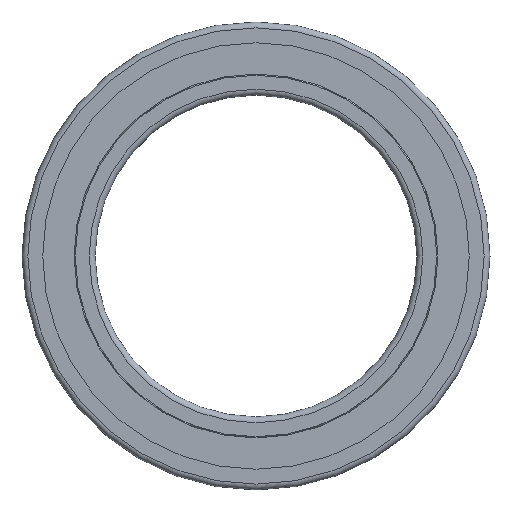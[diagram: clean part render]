
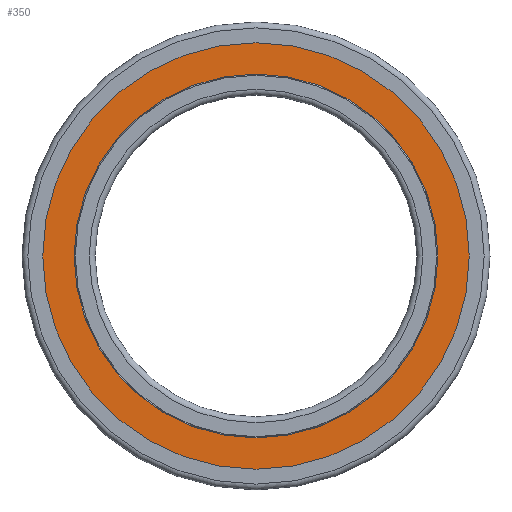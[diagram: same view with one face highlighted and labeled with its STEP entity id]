
A CAD part, left-side view. The second image highlights one B-rep face of the part: STEP entity #350.
In plain terms, the highlighted planar face has unit normal (-1, 0, 0).
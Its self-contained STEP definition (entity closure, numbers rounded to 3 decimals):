
#288=PLANE('',#1288);
#350=ADVANCED_FACE('',(#457,#458),#288,.F.);
#457=FACE_BOUND('',#671,.T.);
#458=FACE_BOUND('',#672,.T.);
#671=EDGE_LOOP('',(#855));
#672=EDGE_LOOP('',(#856));
#855=ORIENTED_EDGE('',*,*,#1153,.F.);
#856=ORIENTED_EDGE('',*,*,#1151,.T.);
#1029=VERTEX_POINT('',#1668);
#1031=VERTEX_POINT('',#1673);
#1151=EDGE_CURVE('',#1029,#1029,#1243,.T.);
#1153=EDGE_CURVE('',#1031,#1031,#1245,.T.);
#1243=CIRCLE('',#1284,36.45);
#1245=CIRCLE('',#1287,31.1);
#1284=AXIS2_PLACEMENT_3D('',#1667,#1426,#1427);
#1287=AXIS2_PLACEMENT_3D('',#1672,#1432,#1433);
#1288=AXIS2_PLACEMENT_3D('',#1674,#1434,#1435);
#1426=DIRECTION('',(-1.,0.,0.));
#1427=DIRECTION('',(0.,0.,1.));
#1432=DIRECTION('',(-1.,0.,0.));
#1433=DIRECTION('',(0.,0.,1.));
#1434=DIRECTION('',(1.,0.,0.));
#1435=DIRECTION('',(0.,0.,-1.));
#1667=CARTESIAN_POINT('',(0.1,0.,0.));
#1668=CARTESIAN_POINT('',(0.1,0.,36.45));
#1672=CARTESIAN_POINT('',(0.1,0.,0.));
#1673=CARTESIAN_POINT('',(0.1,0.,31.1));
#1674=CARTESIAN_POINT('',(0.1,0.,36.45));
